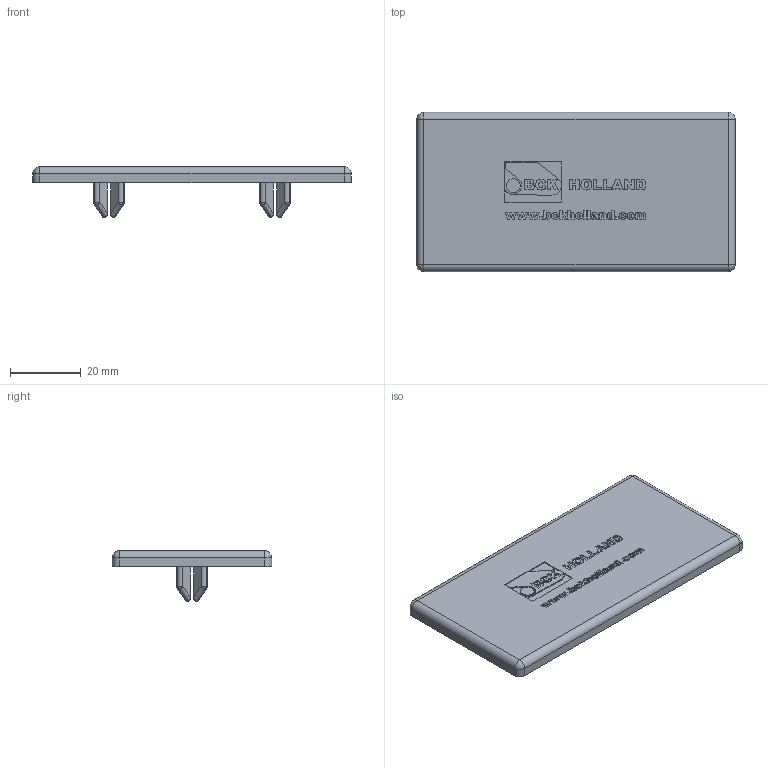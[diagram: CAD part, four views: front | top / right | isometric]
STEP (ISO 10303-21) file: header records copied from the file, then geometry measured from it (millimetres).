
FILE_DESCRIPTION(/* description */ ('Cover Cap 45.90 black '),/* implementation_level */ '2;1');
FILE_NAME(/* name */ 'C:\Users\apromt\Desktop\tekeningen\stp\PA1600040001.stp',/* time_stamp */ '2022-01-19T08:39:04+01:00',/* author */ ('RdGreef'),/* organization */ ('BCK Holland B.V.'),/* preprocessor_version */ 'ST-DEVELOPER v18.1',/* originating_system */ 'Autodesk Inventor 2022',/* authorisation */ '');
FILE_SCHEMA (('AUTOMOTIVE_DESIGN { 1 0 10303 214 3 1 1 }'));
Length unit declared in the file: millimetre
Products named in the file (1): PA1600040001
Bounding box: 90 x 45 x 14.27 mm (x, y, z)
Volume: 9862.5 mm3; surface area: 10933.5 mm2
Topology: 1 solids, 1 shells, 540 faces, 1355 edges, 865 vertices
Faces by surface type: plane 295, bspline 130, cylinder 86, sphere 24, torus 4, cone 1
Full cylindrical faces by diameter (mm): 1.5 x1, 2 x6, 3.92 x1, 4 x6
Entity records: 17017 total; most frequent: CARTESIAN_POINT 4870, ORIENTED_EDGE 2692, DIRECTION 2052, EDGE_CURVE 1346, LINE 910, VECTOR 910, VERTEX_POINT 865, EDGE_LOOP 600
